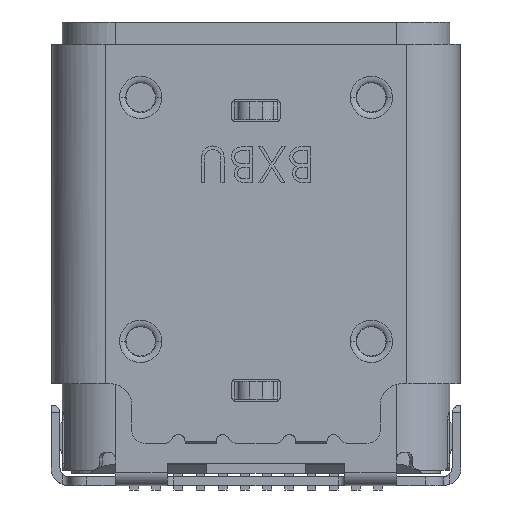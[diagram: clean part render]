
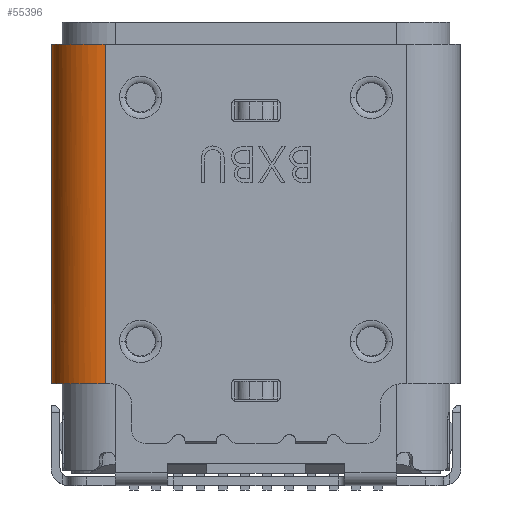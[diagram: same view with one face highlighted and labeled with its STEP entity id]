
A CAD part, front view. The second image highlights one B-rep face of the part: STEP entity #55396.
In plain terms, the highlighted cylindrical face has radius 1.2 mm (diameter 2.4 mm), a partial arc.
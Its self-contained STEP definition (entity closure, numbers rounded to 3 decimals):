
#2721 = DIRECTION ( 'NONE',  ( -1., 0., 0. ) ) ;
#4303 = ORIENTED_EDGE ( 'NONE', *, *, #63080, .T. ) ;
#5020 = CARTESIAN_POINT ( 'NONE',  ( -4.449, -1.134, -0.5 ) ) ;
#5307 = CARTESIAN_POINT ( 'NONE',  ( -3.557, -1.73, -8.15 ) ) ;
#6487 = CARTESIAN_POINT ( 'NONE',  ( -4.569, -0.844, -8.15 ) ) ;
#6681 = CARTESIAN_POINT ( 'NONE',  ( -4.6, -0.53, -3.05 ) ) ;
#8007 = EDGE_CURVE ( 'NONE', #44596, #50160, #28548, .T. ) ;
#12587 = CARTESIAN_POINT ( 'NONE',  ( -4.004, -1.579, -0.5 ) ) ;
#17427 = CARTESIAN_POINT ( 'NONE',  ( -4.36, -1.267, -0.5 ) ) ;
#19043 = EDGE_CURVE ( 'NONE', #44609, #21960, #49194, .T. ) ;
#20747 = DIRECTION ( 'NONE',  ( 0., 0., -1. ) ) ;
#21960 = VERTEX_POINT ( 'NONE', #32410 ) ;
#23991 = CARTESIAN_POINT ( 'NONE',  ( -3.4, -1.73, -3.05 ) ) ;
#24191 = CARTESIAN_POINT ( 'NONE',  ( -3.714, -1.699, -0.5 ) ) ;
#24470 = CARTESIAN_POINT ( 'NONE',  ( -4.137, -1.49, -8.15 ) ) ;
#28548 = B_SPLINE_CURVE_WITH_KNOTS ( 'NONE', 3,
 ( #55591, #61528, #6487, #30832, #72699, #24470, #42414, #66721, #5307, #67109 ),
 .UNSPECIFIED., .F., .F.,
 ( 4, 2, 2, 2, 4 ),
 ( 0., 0.25, 0.5, 0.75, 1. ),
 .UNSPECIFIED. ) ;
#30832 = CARTESIAN_POINT ( 'NONE',  ( -4.449, -1.134, -8.15 ) ) ;
#31021 = CARTESIAN_POINT ( 'NONE',  ( -4.6, -0.53, -8.15 ) ) ;
#31428 = CARTESIAN_POINT ( 'NONE',  ( -4.6, -0.53, -0.5 ) ) ;
#32410 = CARTESIAN_POINT ( 'NONE',  ( -4.6, -0.53, -0.5 ) ) ;
#35744 = CARTESIAN_POINT ( 'NONE',  ( -4.569, -0.844, -0.5 ) ) ;
#35951 = ORIENTED_EDGE ( 'NONE', *, *, #19043, .T. ) ;
#39827 = CARTESIAN_POINT ( 'NONE',  ( -3.4, -0.53, -0.5 ) ) ;
#41723 = CARTESIAN_POINT ( 'NONE',  ( -4.6, -0.53, -0.5 ) ) ;
#42116 = EDGE_CURVE ( 'NONE', #21960, #44596, #52317, .T. ) ;
#42133 = CARTESIAN_POINT ( 'NONE',  ( -4.6, -0.687, -0.5 ) ) ;
#42414 = CARTESIAN_POINT ( 'NONE',  ( -4.004, -1.579, -8.15 ) ) ;
#44596 = VERTEX_POINT ( 'NONE', #45741 ) ;
#44609 = VERTEX_POINT ( 'NONE', #72803 ) ;
#45741 = CARTESIAN_POINT ( 'NONE',  ( -4.6, -0.53, -8.15 ) ) ;
#46343 = CARTESIAN_POINT ( 'NONE',  ( -3.4, -1.73, -8.15 ) ) ;
#47727 = CARTESIAN_POINT ( 'NONE',  ( -3.557, -1.73, -0.5 ) ) ;
#49194 = B_SPLINE_CURVE_WITH_KNOTS ( 'NONE', 3,
 ( #72416, #47727, #24191, #12587, #54907, #17427, #5020, #35744, #42133, #41723 ),
 .UNSPECIFIED., .F., .F.,
 ( 4, 2, 2, 2, 4 ),
 ( 0., 0.25, 0.5, 0.75, 1. ),
 .UNSPECIFIED. ) ;
#49383 = CARTESIAN_POINT ( 'NONE',  ( -3.4, -1.73, -8.15 ) ) ;
#50160 = VERTEX_POINT ( 'NONE', #49383 ) ;
#52317 = B_SPLINE_CURVE_WITH_KNOTS ( 'NONE', 3,
 ( #31428, #6681, #55388, #31021 ),
 .UNSPECIFIED., .F., .F.,
 ( 4, 4 ),
 ( 0., 1. ),
 .UNSPECIFIED. ) ;
#54325 = CARTESIAN_POINT ( 'NONE',  ( -3.4, -1.73, -5.6 ) ) ;
#54907 = CARTESIAN_POINT ( 'NONE',  ( -4.137, -1.49, -0.5 ) ) ;
#55388 = CARTESIAN_POINT ( 'NONE',  ( -4.6, -0.53, -5.6 ) ) ;
#55396 = ADVANCED_FACE ( 'NONE', ( #63746 ), #57795, .T. ) ;
#55591 = CARTESIAN_POINT ( 'NONE',  ( -4.6, -0.53, -8.15 ) ) ;
#56158 = AXIS2_PLACEMENT_3D ( 'NONE', #39827, #20747, #2721 ) ;
#57795 = CYLINDRICAL_SURFACE ( 'NONE', #56158, 1.2 ) ;
#61528 = CARTESIAN_POINT ( 'NONE',  ( -4.6, -0.687, -8.15 ) ) ;
#63025 = EDGE_LOOP ( 'NONE', ( #69008, #78526, #4303, #35951 ) ) ;
#63080 = EDGE_CURVE ( 'NONE', #50160, #44609, #77484, .T. ) ;
#63746 = FACE_OUTER_BOUND ( 'NONE', #63025, .T. ) ;
#66721 = CARTESIAN_POINT ( 'NONE',  ( -3.714, -1.699, -8.15 ) ) ;
#67109 = CARTESIAN_POINT ( 'NONE',  ( -3.4, -1.73, -8.15 ) ) ;
#69008 = ORIENTED_EDGE ( 'NONE', *, *, #42116, .T. ) ;
#72416 = CARTESIAN_POINT ( 'NONE',  ( -3.4, -1.73, -0.5 ) ) ;
#72699 = CARTESIAN_POINT ( 'NONE',  ( -4.36, -1.267, -8.15 ) ) ;
#72803 = CARTESIAN_POINT ( 'NONE',  ( -3.4, -1.73, -0.5 ) ) ;
#73404 = CARTESIAN_POINT ( 'NONE',  ( -3.4, -1.73, -0.5 ) ) ;
#77484 = B_SPLINE_CURVE_WITH_KNOTS ( 'NONE', 3,
 ( #46343, #54325, #23991, #73404 ),
 .UNSPECIFIED., .F., .F.,
 ( 4, 4 ),
 ( 0., 1. ),
 .UNSPECIFIED. ) ;
#78526 = ORIENTED_EDGE ( 'NONE', *, *, #8007, .T. ) ;
